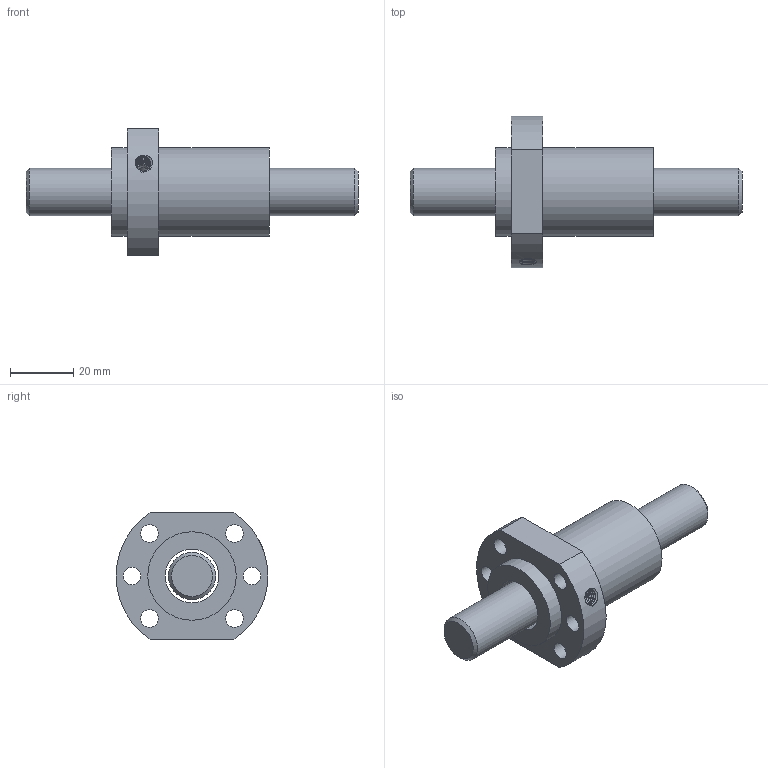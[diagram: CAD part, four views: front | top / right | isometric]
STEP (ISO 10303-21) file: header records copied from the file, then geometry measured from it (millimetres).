
FILE_DESCRIPTION(/* description */ ('Unknown','CAx-IF Rec.Pracs.---Representation and Presentation of Product Manufacturing Information (PMI)---4.0---2014-10-13','CAx-IF Rec.Pracs.---3D Tessellated Geometry---0.4---2014-09-14','2;1'),/* implementation_level */ '2;1');
FILE_NAME(/* name */ 'SFA1620-1.8',/* time_stamp */ '2020-12-08T08:16:04+08:00',/* author */ ('Unknown'),/* organization */ ('Unknown'),/* preprocessor_version */ 'ST-DEVELOPER v16.7',/* originating_system */ 'Solid Edge',/* authorisation */ 'Unknown');
FILE_SCHEMA (('AP242_MANAGED_MODEL_BASED_3D_ENGINEERING_MIM_LF { 1 0 10303 442 1 1 4 }'));
Length unit declared in the file: millimetre
Products named in the file (1): SFA1620-1.8
Bounding box: 105 x 48 x 40 mm (x, y, z)
Volume: 46745.6 mm3; surface area: 16809.3 mm2
Topology: 2 solids, 2 shells, 30 faces, 68 edges, 44 vertices
Faces by surface type: cylinder 16, plane 9, cone 3, bspline 2
Full cylindrical faces by diameter (mm): 4 x1, 4.917 x1, 5.5 x6, 15 x1, 17 x1, 28 x2
Entity records: 2932 total; most frequent: CARTESIAN_POINT 2230, DIRECTION 134, ORIENTED_EDGE 100, AXIS2_PLACEMENT_3D 64, EDGE_LOOP 63, FACE_BOUND 63, EDGE_CURVE 50, VERTEX_POINT 41
